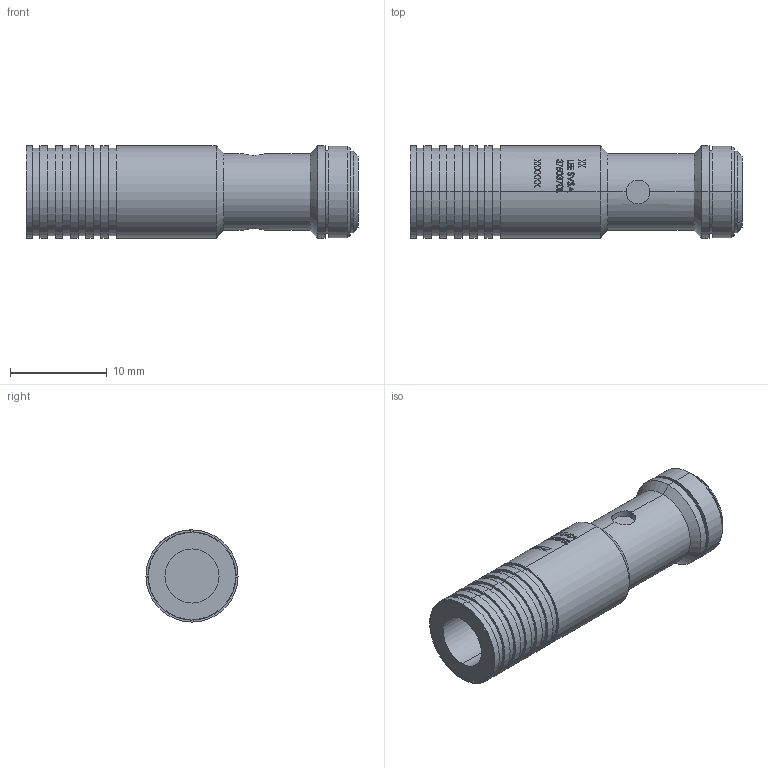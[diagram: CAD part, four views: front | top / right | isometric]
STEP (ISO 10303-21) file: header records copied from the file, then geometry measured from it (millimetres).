
FILE_DESCRIPTION (( 'STEP AP214' ), '1' );
FILE_NAME ('3DSVSA3750370L.STEP', '2021-04-01T17:31:24', ( '' ), ( '' ), 'SwSTEP 2.0', 'SolidWorks 2019', '' );
FILE_SCHEMA (( 'AUTOMOTIVE_DESIGN' ));
Length unit declared in the file: inch
Products named in the file (1): 3DSVSA3750370L
Bounding box: 34.29 x 9.52 x 9.52 mm (x, y, z)
Volume: 1915.1 mm3; surface area: 1435.3 mm2
Topology: 1 solids, 1 shells, 365 faces, 948 edges, 626 vertices
Faces by surface type: bspline 170, plane 113, cylinder 68, cone 14
Entity records: 18769 total; most frequent: CARTESIAN_POINT 7448, ORIENTED_EDGE 1896, DIRECTION 1008, EDGE_CURVE 948, VERTEX_POINT 626, B_SPLINE_CURVE_WITH_KNOTS 566, AXIS2_PLACEMENT_3D 430, EDGE_LOOP 406
